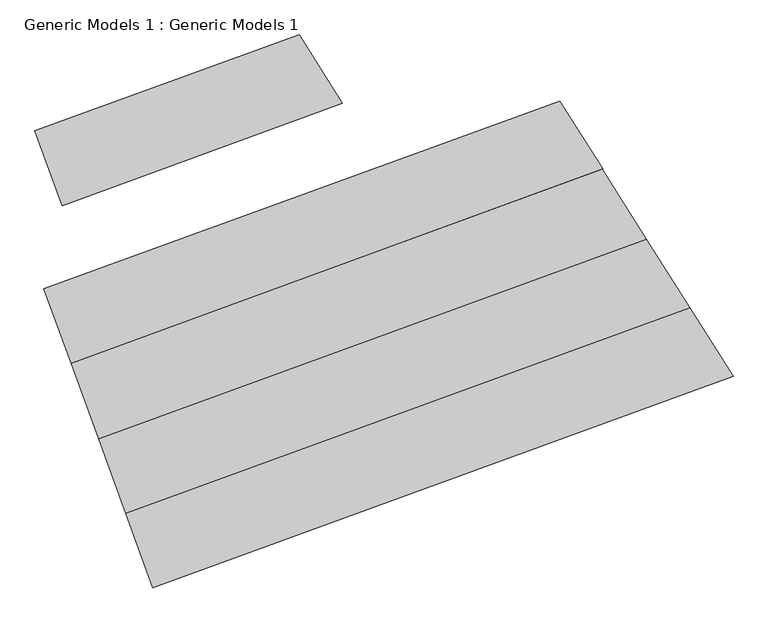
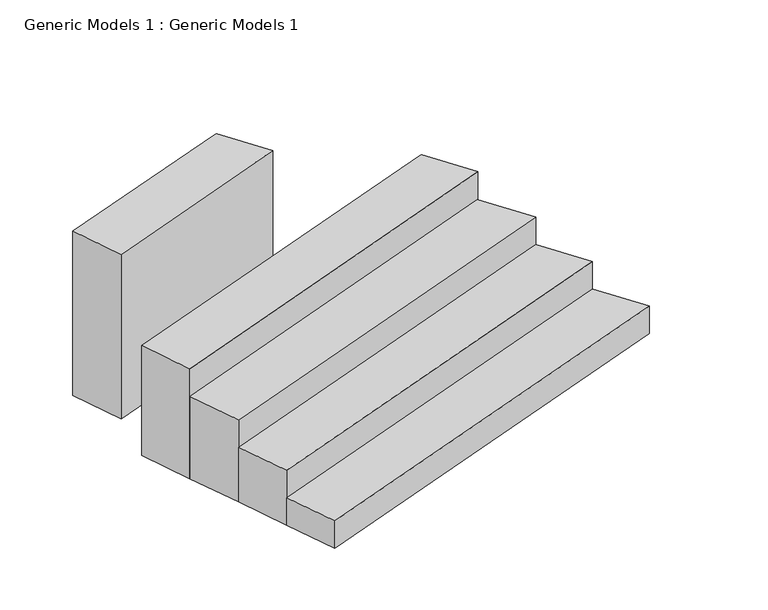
"""IFC4 building model written with IfcOpenShell, lengths in millimetres: proxy geometry, Generic Models 1 : Generic Models 1."""

from ifc_helpers import new_model, si_unit, frame, origin, place, context, project, spatial, polyline, outline, extrude, source, transform, mapped, element, save


def generic_models_1_generic_models_1_36504a95(model_context):
    return source(origin(), model_context, "Body", "SweptSolid", [
        extrude(outline(polyline([(37119.6158039, 13481.1887775), (36914.2545369, 14045.4142213), (38912.7794108, 14771.9232985), (39238.4760263, 14255.9547866), (37119.6158039, 13481.1887775)])), frame((0.0, 0.0, 2500.0), z_axis=(0.0, 0.0, 1.0), x_axis=(1.0, 0.0, 0.0)), (0.0, 0.0, 1.0), 1916.2502957),
        extrude(outline(polyline([(37805.911175, 10590.441628), (37600.699089, 11154.2572005), (41868.687076, 12707.677788), (42196.5157159, 12188.4909913), (37805.911175, 10590.441628)])), frame((0.0, 0.0, 2500.0), z_axis=(0.0, 0.0, 1.0), x_axis=(1.0, 0.0, 0.0)), (0.0, 0.0, 1.0), 320.0),
        extrude(outline(polyline([(37600.6990957, 11154.2572029), (37395.4870097, 11718.0727754), (41540.8584362, 13226.8645846), (41868.687076, 12707.677788), (37600.6990957, 11154.2572029)])), frame((0.0, 0.0, 2500.0), z_axis=(0.0, 0.0, 1.0), x_axis=(1.0, 0.0, 0.0)), (0.0, 0.0, 1.0), 640.0),
        extrude(outline(polyline([(37395.4871448, 11718.0728246), (37188.0851376, 12287.9051562), (41206.0614556, 13757.0872399), (41540.8584362, 13226.8645846), (37395.4871448, 11718.0728246)])), frame((0.0, 0.0, 2500.0), z_axis=(0.0, 0.0, 1.0), x_axis=(1.0, 0.0, 0.0)), (0.0, 0.0, 1.0), 960.0),
        extrude(outline(polyline([(37188.0851376, 12287.9051562), (36982.4972199, 12852.7533179), (40884.9903696, 14271.3980064), (41208.9693774, 13758.150528), (37188.0851376, 12287.9051562)])), frame((0.0, 0.0, 2500.0), z_axis=(0.0, 0.0, 1.0), x_axis=(1.0, 0.0, 0.0)), (0.0, 0.0, 1.0), 1280.0),
    ])


if __name__ == "__main__":
    model = new_model("IFC4")
    model_context = context("Model", 3, world=origin())
    ifc_project = project(units=[si_unit("LENGTHUNIT", "METRE", prefix="MILLI")], contexts=[model_context])
    site = spatial("IfcSite", under=ifc_project)
    building = spatial("IfcBuilding", under=site)
    placement = place(None, origin())
    generic_models_1_generic_models_1_shape = generic_models_1_generic_models_1_36504a95(model_context)
    element("IfcBuildingElementProxy", 1, Name="Generic Models 1 : Generic Models 1", ObjectType="Generic Models 1 : Generic Models 1", at=placement, inside=building, context=model_context, shape_type="MappedRepresentation", body=[
        mapped(generic_models_1_generic_models_1_shape, transform((0.0, 0.0, 0.0), x_axis=(1.0, 0.0, 0.0), y_axis=(0.0, 1.0, 0.0), z_axis=(0.0, 0.0, 1.0))),
    ])
    save(model, "model.ifc")
